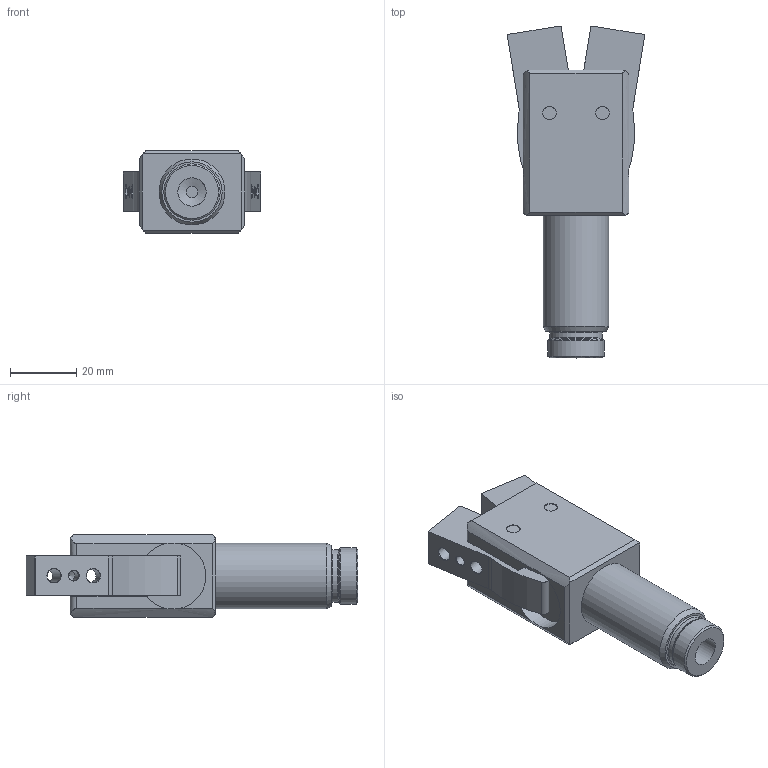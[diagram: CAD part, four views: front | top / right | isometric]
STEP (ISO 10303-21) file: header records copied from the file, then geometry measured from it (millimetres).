
FILE_DESCRIPTION(('STEP AP214'),'1');
FILE_NAME('CA.GRZ.20.A.stp','2020-05-07T13:40:58',(' '),(' '),'Spatial InterOp 3D',' ',' ');
FILE_SCHEMA(('AUTOMOTIVE_DESIGN { 1 0 10303 214 1 1 1 1 }'));
Length unit declared in the file: millimetre
Products named in the file (3): CA.GRZ.20.A; GRZ.20.A; GRZ.20.01 (derivato)
Assembly tree (3 placements, depth 2):
  CA.GRZ.20.A
    GRZ.20.A  x2
    GRZ.20.01 (derivato)
Bounding box: 41.53 x 100.35 x 25 mm (x, y, z)
Volume: 45876.6 mm3; surface area: 17652.2 mm2
Topology: 3 solids, 3 shells, 127 faces, 338 edges, 224 vertices
Faces by surface type: plane 61, cylinder 45, cone 18, torus 3
Full cylindrical faces by diameter (mm): 3.05 x2, 4.05 x8, 4.2 x4, 8 x2, 8.566 x2, 16 x1, 17 x1, 19.95 x1, 20 x2
Entity records: 3644 total; most frequent: CARTESIAN_POINT 565, DIRECTION 472, ORIENTED_EDGE 398, EDGE_CURVE 199, AXIS2_PLACEMENT_3D 189, VERTEX_POINT 150, EDGE_LOOP 142, FACE_OUTER_BOUND 114
